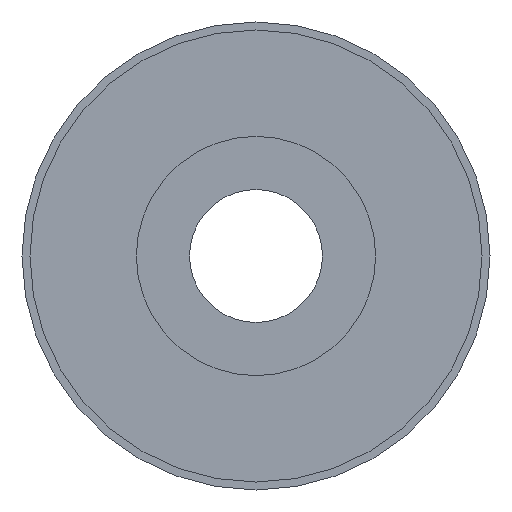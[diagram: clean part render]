
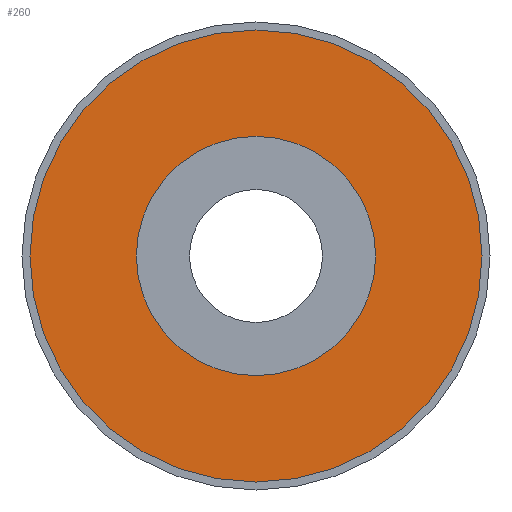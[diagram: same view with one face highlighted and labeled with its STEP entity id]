
A CAD part, left-side view. The second image highlights one B-rep face of the part: STEP entity #260.
In plain terms, the highlighted planar face has unit normal (-1, 0, 0).
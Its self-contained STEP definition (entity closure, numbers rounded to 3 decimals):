
#33=ORIENTED_EDGE('',*,*,#81,.T.);
#34=ORIENTED_EDGE('',*,*,#82,.F.);
#81=EDGE_CURVE('',#105,#105,#129,.T.);
#82=EDGE_CURVE('',#106,#106,#130,.T.);
#105=VERTEX_POINT('',#446);
#106=VERTEX_POINT('',#448);
#129=CIRCLE('',#298,4.5);
#130=CIRCLE('',#299,8.5);
#153=EDGE_LOOP('',(#33));
#154=EDGE_LOOP('',(#34));
#201=FACE_BOUND('',#153,.T.);
#202=FACE_BOUND('',#154,.T.);
#249=PLANE('',#297);
#260=ADVANCED_FACE('',(#201,#202),#249,.T.);
#297=AXIS2_PLACEMENT_3D('',#444,#347,#348);
#298=AXIS2_PLACEMENT_3D('',#445,#349,#350);
#299=AXIS2_PLACEMENT_3D('',#447,#351,#352);
#347=DIRECTION('',(-1.,0.,0.));
#348=DIRECTION('',(0.,0.,1.));
#349=DIRECTION('',(1.,0.,0.));
#350=DIRECTION('',(0.,0.,-1.));
#351=DIRECTION('',(1.,0.,0.));
#352=DIRECTION('',(0.,0.,-1.));
#444=CARTESIAN_POINT('',(0.,8.5,0.));
#445=CARTESIAN_POINT('',(0.,0.,0.));
#446=CARTESIAN_POINT('',(0.,0.,-4.5));
#447=CARTESIAN_POINT('',(0.,0.,0.));
#448=CARTESIAN_POINT('',(0.,0.,-8.5));
